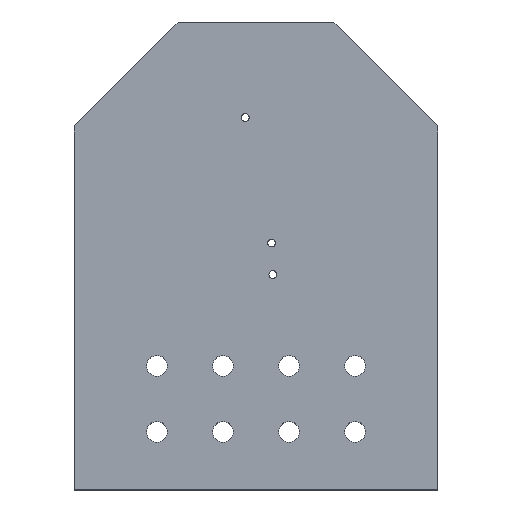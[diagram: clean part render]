
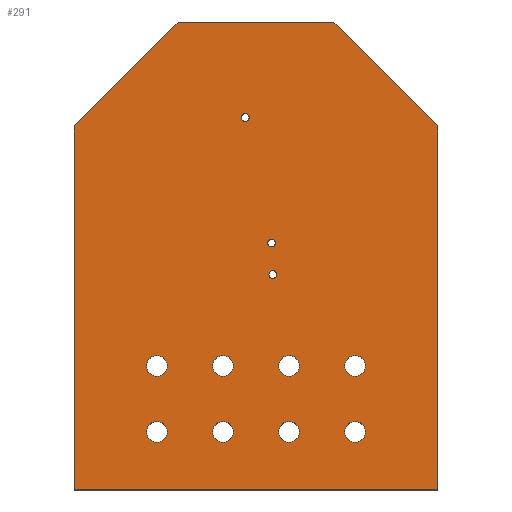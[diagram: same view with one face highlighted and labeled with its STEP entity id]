
A CAD part, top view. The second image highlights one B-rep face of the part: STEP entity #291.
In plain terms, the highlighted planar face has unit normal (0, 0, 1).
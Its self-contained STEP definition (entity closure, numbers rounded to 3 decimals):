
#42 = VERTEX_POINT('',#43);
#43 = CARTESIAN_POINT('',(64.,-54.,1.51));
#49 = EDGE_CURVE('',#42,#50,#52,.T.);
#50 = VERTEX_POINT('',#51);
#51 = CARTESIAN_POINT('',(64.,-68.,1.51));
#52 = LINE('',#53,#54);
#53 = CARTESIAN_POINT('',(64.,-54.,1.51));
#54 = VECTOR('',#55,1.);
#55 = DIRECTION('',(0.,-1.,0.));
#82 = VERTEX_POINT('',#83);
#83 = CARTESIAN_POINT('',(60.,-50.,1.51));
#89 = EDGE_CURVE('',#82,#42,#90,.T.);
#90 = LINE('',#91,#92);
#91 = CARTESIAN_POINT('',(60.,-50.,1.51));
#92 = VECTOR('',#93,1.);
#93 = DIRECTION('',(0.707,-0.707,0.));
#111 = EDGE_CURVE('',#50,#112,#114,.T.);
#112 = VERTEX_POINT('',#113);
#113 = CARTESIAN_POINT('',(50.,-68.,1.51));
#114 = LINE('',#115,#116);
#115 = CARTESIAN_POINT('',(64.,-68.,1.51));
#116 = VECTOR('',#117,1.);
#117 = DIRECTION('',(-1.,0.,0.));
#291 = ADVANCED_FACE('',(#292,#319,#330,#341,#352,#363,#374,#385,#396,
    #407,#418,#429),#440,.T.);
#292 = FACE_BOUND('',#293,.T.);
#293 = EDGE_LOOP('',(#294,#295,#296,#304,#312,#318));
#294 = ORIENTED_EDGE('',*,*,#49,.F.);
#295 = ORIENTED_EDGE('',*,*,#89,.F.);
#296 = ORIENTED_EDGE('',*,*,#297,.F.);
#297 = EDGE_CURVE('',#298,#82,#300,.T.);
#298 = VERTEX_POINT('',#299);
#299 = CARTESIAN_POINT('',(54.,-50.,1.51));
#300 = LINE('',#301,#302);
#301 = CARTESIAN_POINT('',(54.,-50.,1.51));
#302 = VECTOR('',#303,1.);
#303 = DIRECTION('',(1.,0.,0.));
#304 = ORIENTED_EDGE('',*,*,#305,.F.);
#305 = EDGE_CURVE('',#306,#298,#308,.T.);
#306 = VERTEX_POINT('',#307);
#307 = CARTESIAN_POINT('',(50.,-54.,1.51));
#308 = LINE('',#309,#310);
#309 = CARTESIAN_POINT('',(50.,-54.,1.51));
#310 = VECTOR('',#311,1.);
#311 = DIRECTION('',(0.707,0.707,0.));
#312 = ORIENTED_EDGE('',*,*,#313,.F.);
#313 = EDGE_CURVE('',#112,#306,#314,.T.);
#314 = LINE('',#315,#316);
#315 = CARTESIAN_POINT('',(50.,-68.,1.51));
#316 = VECTOR('',#317,1.);
#317 = DIRECTION('',(0.,1.,0.));
#318 = ORIENTED_EDGE('',*,*,#111,.F.);
#319 = FACE_BOUND('',#320,.T.);
#320 = EDGE_LOOP('',(#321));
#321 = ORIENTED_EDGE('',*,*,#322,.T.);
#322 = EDGE_CURVE('',#323,#323,#325,.T.);
#323 = VERTEX_POINT('',#324);
#324 = CARTESIAN_POINT('',(53.19,-66.17,1.51));
#325 = CIRCLE('',#326,0.4);
#326 = AXIS2_PLACEMENT_3D('',#327,#328,#329);
#327 = CARTESIAN_POINT('',(53.19,-65.77,1.51));
#328 = DIRECTION('',(-0.,0.,-1.));
#329 = DIRECTION('',(-0.,-1.,0.));
#330 = FACE_BOUND('',#331,.T.);
#331 = EDGE_LOOP('',(#332));
#332 = ORIENTED_EDGE('',*,*,#333,.T.);
#333 = EDGE_CURVE('',#334,#334,#336,.T.);
#334 = VERTEX_POINT('',#335);
#335 = CARTESIAN_POINT('',(53.19,-63.63,1.51));
#336 = CIRCLE('',#337,0.4);
#337 = AXIS2_PLACEMENT_3D('',#338,#339,#340);
#338 = CARTESIAN_POINT('',(53.19,-63.23,1.51));
#339 = DIRECTION('',(-0.,0.,-1.));
#340 = DIRECTION('',(-0.,-1.,0.));
#341 = FACE_BOUND('',#342,.T.);
#342 = EDGE_LOOP('',(#343));
#343 = ORIENTED_EDGE('',*,*,#344,.T.);
#344 = EDGE_CURVE('',#345,#345,#347,.T.);
#345 = VERTEX_POINT('',#346);
#346 = CARTESIAN_POINT('',(55.73,-66.17,1.51));
#347 = CIRCLE('',#348,0.4);
#348 = AXIS2_PLACEMENT_3D('',#349,#350,#351);
#349 = CARTESIAN_POINT('',(55.73,-65.77,1.51));
#350 = DIRECTION('',(-0.,0.,-1.));
#351 = DIRECTION('',(0.,-1.,0.));
#352 = FACE_BOUND('',#353,.T.);
#353 = EDGE_LOOP('',(#354));
#354 = ORIENTED_EDGE('',*,*,#355,.T.);
#355 = EDGE_CURVE('',#356,#356,#358,.T.);
#356 = VERTEX_POINT('',#357);
#357 = CARTESIAN_POINT('',(55.73,-63.63,1.51));
#358 = CIRCLE('',#359,0.4);
#359 = AXIS2_PLACEMENT_3D('',#360,#361,#362);
#360 = CARTESIAN_POINT('',(55.73,-63.23,1.51));
#361 = DIRECTION('',(-0.,0.,-1.));
#362 = DIRECTION('',(0.,-1.,0.));
#363 = FACE_BOUND('',#364,.T.);
#364 = EDGE_LOOP('',(#365));
#365 = ORIENTED_EDGE('',*,*,#366,.T.);
#366 = EDGE_CURVE('',#367,#367,#369,.T.);
#367 = VERTEX_POINT('',#368);
#368 = CARTESIAN_POINT('',(58.27,-66.17,1.51));
#369 = CIRCLE('',#370,0.4);
#370 = AXIS2_PLACEMENT_3D('',#371,#372,#373);
#371 = CARTESIAN_POINT('',(58.27,-65.77,1.51));
#372 = DIRECTION('',(-0.,0.,-1.));
#373 = DIRECTION('',(0.,-1.,-0.));
#374 = FACE_BOUND('',#375,.T.);
#375 = EDGE_LOOP('',(#376));
#376 = ORIENTED_EDGE('',*,*,#377,.T.);
#377 = EDGE_CURVE('',#378,#378,#380,.T.);
#378 = VERTEX_POINT('',#379);
#379 = CARTESIAN_POINT('',(58.27,-63.63,1.51));
#380 = CIRCLE('',#381,0.4);
#381 = AXIS2_PLACEMENT_3D('',#382,#383,#384);
#382 = CARTESIAN_POINT('',(58.27,-63.23,1.51));
#383 = DIRECTION('',(-0.,0.,-1.));
#384 = DIRECTION('',(0.,-1.,-0.));
#385 = FACE_BOUND('',#386,.T.);
#386 = EDGE_LOOP('',(#387));
#387 = ORIENTED_EDGE('',*,*,#388,.T.);
#388 = EDGE_CURVE('',#389,#389,#391,.T.);
#389 = VERTEX_POINT('',#390);
#390 = CARTESIAN_POINT('',(60.81,-66.17,1.51));
#391 = CIRCLE('',#392,0.4);
#392 = AXIS2_PLACEMENT_3D('',#393,#394,#395);
#393 = CARTESIAN_POINT('',(60.81,-65.77,1.51));
#394 = DIRECTION('',(-0.,0.,-1.));
#395 = DIRECTION('',(-0.,-1.,0.));
#396 = FACE_BOUND('',#397,.T.);
#397 = EDGE_LOOP('',(#398));
#398 = ORIENTED_EDGE('',*,*,#399,.T.);
#399 = EDGE_CURVE('',#400,#400,#402,.T.);
#400 = VERTEX_POINT('',#401);
#401 = CARTESIAN_POINT('',(60.81,-63.63,1.51));
#402 = CIRCLE('',#403,0.4);
#403 = AXIS2_PLACEMENT_3D('',#404,#405,#406);
#404 = CARTESIAN_POINT('',(60.81,-63.23,1.51));
#405 = DIRECTION('',(-0.,0.,-1.));
#406 = DIRECTION('',(-0.,-1.,0.));
#407 = FACE_BOUND('',#408,.T.);
#408 = EDGE_LOOP('',(#409));
#409 = ORIENTED_EDGE('',*,*,#410,.T.);
#410 = EDGE_CURVE('',#411,#411,#413,.T.);
#411 = VERTEX_POINT('',#412);
#412 = CARTESIAN_POINT('',(56.587,-53.824,1.51));
#413 = CIRCLE('',#414,0.15);
#414 = AXIS2_PLACEMENT_3D('',#415,#416,#417);
#415 = CARTESIAN_POINT('',(56.587,-53.674,1.51));
#416 = DIRECTION('',(-0.,0.,-1.));
#417 = DIRECTION('',(-0.,-1.,0.));
#418 = FACE_BOUND('',#419,.T.);
#419 = EDGE_LOOP('',(#420));
#420 = ORIENTED_EDGE('',*,*,#421,.T.);
#421 = EDGE_CURVE('',#422,#422,#424,.T.);
#422 = VERTEX_POINT('',#423);
#423 = CARTESIAN_POINT('',(57.65,-59.865,1.51));
#424 = CIRCLE('',#425,0.15);
#425 = AXIS2_PLACEMENT_3D('',#426,#427,#428);
#426 = CARTESIAN_POINT('',(57.65,-59.715,1.51));
#427 = DIRECTION('',(-0.,0.,-1.));
#428 = DIRECTION('',(-0.,-1.,0.));
#429 = FACE_BOUND('',#430,.T.);
#430 = EDGE_LOOP('',(#431));
#431 = ORIENTED_EDGE('',*,*,#432,.T.);
#432 = EDGE_CURVE('',#433,#433,#435,.T.);
#433 = VERTEX_POINT('',#434);
#434 = CARTESIAN_POINT('',(57.6,-58.653,1.51));
#435 = CIRCLE('',#436,0.15);
#436 = AXIS2_PLACEMENT_3D('',#437,#438,#439);
#437 = CARTESIAN_POINT('',(57.6,-58.503,1.51));
#438 = DIRECTION('',(-0.,0.,-1.));
#439 = DIRECTION('',(-0.,-1.,0.));
#440 = PLANE('',#441);
#441 = AXIS2_PLACEMENT_3D('',#442,#443,#444);
#442 = CARTESIAN_POINT('',(0.,0.,1.51));
#443 = DIRECTION('',(0.,0.,1.));
#444 = DIRECTION('',(1.,0.,-0.));
